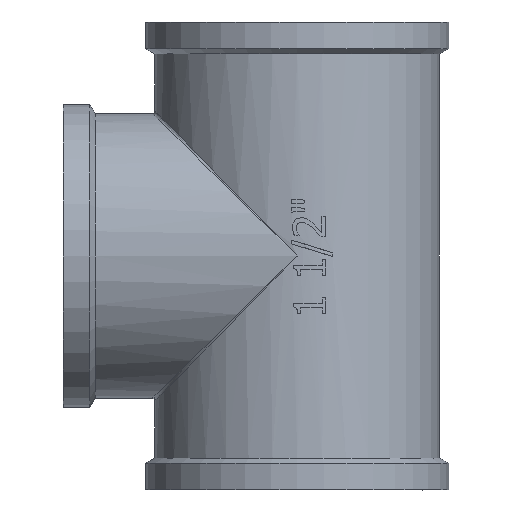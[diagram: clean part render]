
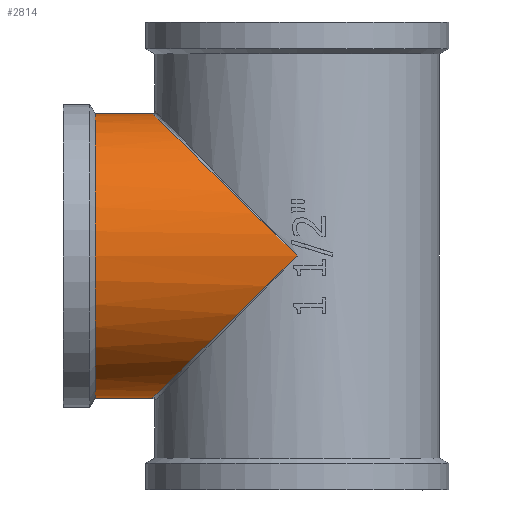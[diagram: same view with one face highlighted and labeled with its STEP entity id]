
A CAD part, left-side view. The second image highlights one B-rep face of the part: STEP entity #2814.
In plain terms, the highlighted cylindrical face has radius 26.75 mm (diameter 53.5 mm), a full revolution.
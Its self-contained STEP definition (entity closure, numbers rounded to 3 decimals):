
#246=CIRCLE('',#3034,26.75);
#247=CIRCLE('',#3035,26.75);
#248=CIRCLE('',#3036,26.75);
#428=FACE_OUTER_BOUND('',#594,.T.);
#594=EDGE_LOOP('',(#2163,#2164,#2165,#2166,#2167,#2168,#2169,#2170));
#720=ELLIPSE('',#3019,38.185,26.75);
#725=ELLIPSE('',#3024,38.185,26.75);
#726=ELLIPSE('',#3025,38.185,26.75);
#823=LINE('',#4793,#1012);
#1012=VECTOR('',#3456,26.75);
#1211=VERTEX_POINT('',#4685);
#1213=VERTEX_POINT('',#4694);
#1219=VERTEX_POINT('',#4766);
#1220=VERTEX_POINT('',#4768);
#1227=VERTEX_POINT('',#4792);
#1228=VERTEX_POINT('',#4794);
#1553=EDGE_CURVE('',#1211,#1213,#720,.T.);
#1560=EDGE_CURVE('',#1213,#1219,#725,.T.);
#1561=EDGE_CURVE('',#1219,#1220,#726,.T.);
#1572=EDGE_CURVE('',#1220,#1211,#246,.T.);
#1573=EDGE_CURVE('',#1219,#1227,#823,.T.);
#1574=EDGE_CURVE('',#1227,#1228,#247,.T.);
#1575=EDGE_CURVE('',#1228,#1227,#248,.T.);
#2163=ORIENTED_EDGE('',*,*,#1560,.F.);
#2164=ORIENTED_EDGE('',*,*,#1553,.F.);
#2165=ORIENTED_EDGE('',*,*,#1572,.F.);
#2166=ORIENTED_EDGE('',*,*,#1561,.F.);
#2167=ORIENTED_EDGE('',*,*,#1573,.T.);
#2168=ORIENTED_EDGE('',*,*,#1574,.T.);
#2169=ORIENTED_EDGE('',*,*,#1575,.T.);
#2170=ORIENTED_EDGE('',*,*,#1573,.F.);
#2702=CYLINDRICAL_SURFACE('',#3033,26.75);
#2814=ADVANCED_FACE('',(#428),#2702,.T.);
#3019=AXIS2_PLACEMENT_3D('',#4695,#3421,#3422);
#3024=AXIS2_PLACEMENT_3D('',#4767,#3431,#3432);
#3025=AXIS2_PLACEMENT_3D('',#4769,#3433,#3434);
#3033=AXIS2_PLACEMENT_3D('',#4790,#3452,#3453);
#3034=AXIS2_PLACEMENT_3D('',#4791,#3454,#3455);
#3035=AXIS2_PLACEMENT_3D('',#4795,#3457,#3458);
#3036=AXIS2_PLACEMENT_3D('',#4796,#3459,#3460);
#3421=DIRECTION('center_axis',(0.,-0.701,0.714));
#3422=DIRECTION('ref_axis',(0.,0.714,0.701));
#3431=DIRECTION('center_axis',(0.,-0.701,-0.714));
#3432=DIRECTION('ref_axis',(0.,0.714,-0.701));
#3433=DIRECTION('center_axis',(0.,-0.701,-0.714));
#3434=DIRECTION('ref_axis',(0.,0.714,-0.701));
#3452=DIRECTION('center_axis',(0.,-1.,0.));
#3453=DIRECTION('ref_axis',(0.,0.,1.));
#3454=DIRECTION('center_axis',(0.,-1.,0.));
#3455=DIRECTION('ref_axis',(0.,0.,1.));
#3456=DIRECTION('',(0.,1.,0.));
#3457=DIRECTION('center_axis',(0.,-1.,0.));
#3458=DIRECTION('ref_axis',(1.,0.,0.));
#3459=DIRECTION('center_axis',(0.,-1.,0.));
#3460=DIRECTION('ref_axis',(1.,0.,0.));
#4685=CARTESIAN_POINT('',(25.645,7.75,7.608));
#4694=CARTESIAN_POINT('',(-26.75,0.,0.));
#4695=CARTESIAN_POINT('Origin',(0.,0.,0.));
#4766=CARTESIAN_POINT('',(0.,27.25,-26.75));
#4767=CARTESIAN_POINT('Origin',(0.,0.,0.));
#4768=CARTESIAN_POINT('',(25.645,7.75,-7.608));
#4769=CARTESIAN_POINT('Origin',(0.,0.,0.));
#4790=CARTESIAN_POINT('Origin',(0.,19.,0.));
#4791=CARTESIAN_POINT('Origin',(0.,7.75,0.));
#4792=CARTESIAN_POINT('',(0.,38.,-26.75));
#4793=CARTESIAN_POINT('',(0.,19.,-26.75));
#4794=CARTESIAN_POINT('',(0.,38.,26.75));
#4795=CARTESIAN_POINT('Origin',(0.,38.,0.));
#4796=CARTESIAN_POINT('Origin',(0.,38.,0.));
